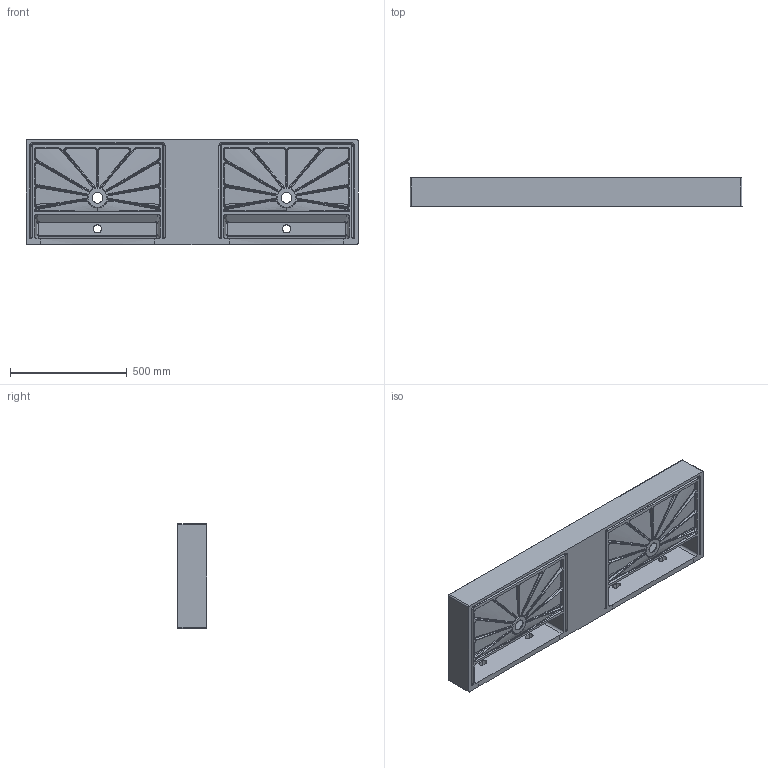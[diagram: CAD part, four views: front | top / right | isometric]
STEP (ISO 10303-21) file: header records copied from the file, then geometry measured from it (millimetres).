
FILE_DESCRIPTION (( 'STEP AP203' ), '1' );
FILE_NAME ('ELLP14245DQM.STEP', '2019-01-21T16:47:33', ( '' ), ( '' ), 'SwSTEP 2.0', 'SolidWorks 2019', '' );
FILE_SCHEMA (( 'CONFIG_CONTROL_DESIGN' ));
Products named in the file (1): ELLP14245DQM
Bounding box: 1422.18 x 125 x 450 mm (x, y, z)
Volume: 31267281.6 mm3; surface area: 2319995.7 mm2
Topology: 1 solids, 1 shells, 564 faces, 1442 edges, 874 vertices
Faces by surface type: bspline 298, cylinder 122, plane 98, torus 20, sphere 16, cone 10
Entity records: 46527 total; most frequent: CARTESIAN_POINT 35279, ORIENTED_EDGE 2860, DIRECTION 1690, EDGE_CURVE 1430, VERTEX_POINT 874, AXIS2_PLACEMENT_3D 683, EDGE_LOOP 586, ADVANCED_FACE 564
